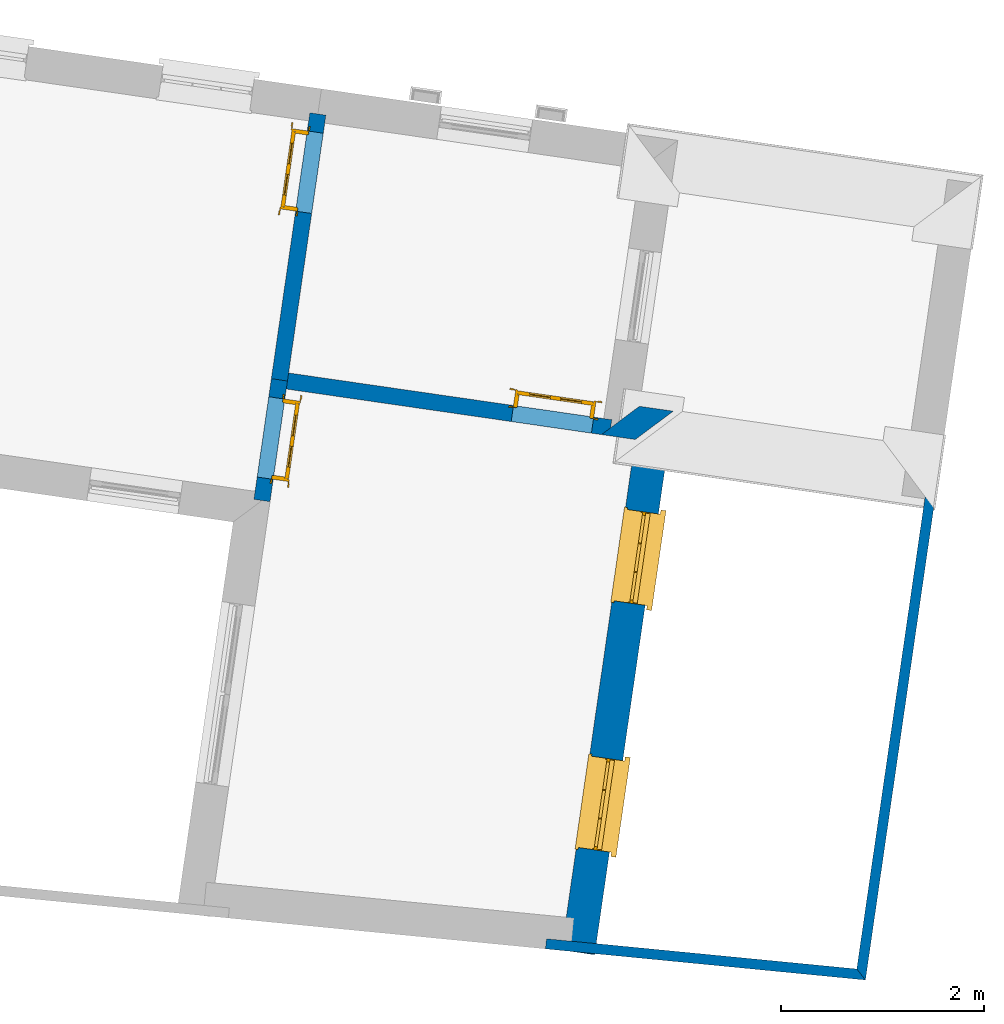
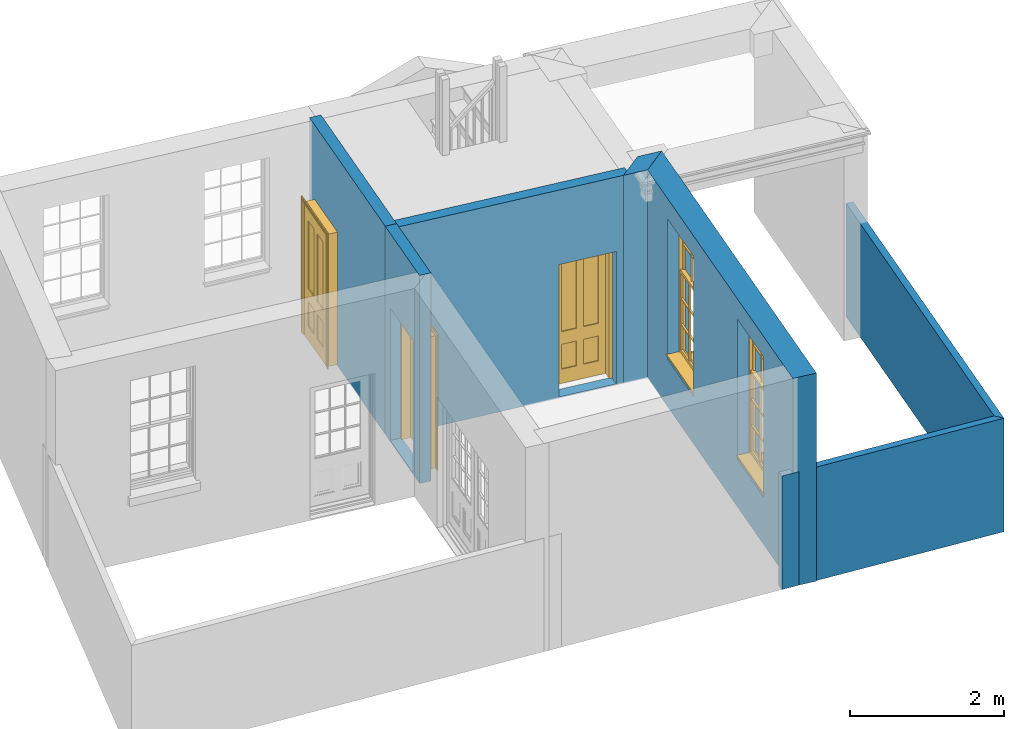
# One storey, part 4 of 7: 7 walls, 3 doors, 2 windows, 5 openings.
"""IFC4 building model written with IfcOpenShell, lengths in metres."""

from ifc_helpers import new_model, si_unit, frame, origin, origin_with_axes, place, context, subcontext, project, spatial, polyline, outline, extrude, faceted_brep, source, transform, mapped, material, layer, layer_set, layer_usage, type_object, type_shapes, element, fill, save


model = new_model("IFC4")

# Units and contexts
model_context = context("Model", 3, world=origin_with_axes())
body_context = subcontext(model_context, "Body", "Model", "MODEL_VIEW")
ifc_project = project(units=[si_unit("PLANEANGLEUNIT", "RADIAN"), si_unit("MASSUNIT", "GRAM", prefix="KILO"), si_unit("FORCEUNIT", "NEWTON", prefix="KILO"), si_unit("LENGTHUNIT", "METRE"), si_unit("AREAUNIT", "SQUARE_METRE"), si_unit("VOLUMEUNIT", "CUBIC_METRE")], contexts=[model_context, model_context])

# Sites, building, storey
site_1_placement = place(None, origin_with_axes())
site_1 = spatial("IfcSite", under=ifc_project, at=site_1_placement, Name="Tamar")
site_2_placement = place(site_1_placement, origin_with_axes())
site_2 = spatial("IfcSite", under=site_1, at=site_2_placement, Name="Site plot-30", CompositionType="ELEMENT")
building_placement = place(None, origin_with_axes())
building = spatial("IfcBuilding", under=site_2, at=building_placement, Name="Building plot-30", CompositionType="ELEMENT")
storey_placement = place(None, frame((0.0, 0.0, 25.0), z_axis=(0.0, 0.0, 1.0), x_axis=(1.0, 0.0, 0.0)))
storey = spatial("IfcBuildingStorey", under=building, at=storey_placement, Name="plot-30 0", CompositionType="ELEMENT", Elevation=25.0)

# Wall, openings, windows
ifc_material_1 = material(Name="Masonry")
ifc_layer_1 = layer(ifc_material_1, 0.33, ventilated=False)
ifc_layer_set_1 = layer_set([ifc_layer_1], Name="exterior_0.08_0.25")
ifc_layer_usage_1 = layer_usage(ifc_layer_set_1, "AXIS2", "POSITIVE", -0.25)
wall_type_1 = type_object("IfcWallType", Name="exterior_0.08_0.25", PredefinedType="SOLIDWALL", material=ifc_layer_set_1)
wall_1_placement = place(storey_placement, frame((288.901284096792, 255.491842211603, 0.0), z_axis=(0.0, 0.0, 1.0), x_axis=(0.143119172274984, 0.989705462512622, 0.0)))
wall_1 = element("IfcWall", 1, at=wall_1_placement, inside=storey, type_object=wall_type_1, material=ifc_layer_usage_1, Name="exterior", context=body_context, shape_type="SweptSolid", body=[
    extrude(outline(polyline([(-0.250000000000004, 0.0800000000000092), (-0.249999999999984, -0.249999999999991), (5.16741889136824, -0.25), (4.8374188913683, 0.0800000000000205), (-0.250000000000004, 0.0800000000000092)])), origin_with_axes(), (0.0, 0.0, 1.0), 3.3),
])
opening_1_placement = place(wall_1_placement, frame((0.774354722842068, 0.0, 0.75)))
opening_1 = element("IfcOpeningElement", 2, at=opening_1_placement, cuts=wall_1, Name="My Opening", ObjectType="Opening", context=body_context, shape_type="SweptSolid", body=[
    extrude(outline(polyline([(0.0, -0.270000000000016), (0.909999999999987, -0.269999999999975), (0.909999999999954, 1.10000000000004), (-3.33066907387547e-14, 1.1), (0.0, -0.270000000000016)])), origin_with_axes(), (0.0, 0.0, 1.0), 2.23),
])
opening_2_placement = place(wall_1_placement, frame((3.23306416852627, 0.0, 0.75)))
opening_2 = element("IfcOpeningElement", 3, at=opening_2_placement, cuts=wall_1, Name="My Opening", ObjectType="Opening", context=body_context, shape_type="SweptSolid", body=[
    extrude(outline(polyline([(0.0, -0.270000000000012), (0.909999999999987, -0.269999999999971), (0.909999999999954, 1.10000000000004), (-3.37507799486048e-14, 1.1), (0.0, -0.270000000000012)])), origin_with_axes(), (0.0, 0.0, 1.0), 2.23),
])
window_type = type_object("IfcWindowType", Name="sash_big_taller", PartitioningType="DOUBLE_PANEL_HORIZONTAL", PredefinedType="NOTDEFINED")
shared_shape_1 = source(origin(), body_context, "Body", "Brep", [
    faceted_brep([(0.033125, 0.145, 1.385209), (0.01, 0.145, 1.385209), (0.033125, 0.145, 1.786042), (0.876875, 0.145, 1.385209), (0.876875, 0.145, 1.786042), (0.9, 0.145, 1.385209), (0.876875, 0.145, 1.796042), (0.876875, 0.145, 2.196875), (0.9, 0.145, 2.22), (0.033125, 0.145, 2.196875), (0.033125, 0.145, 1.796042), (0.01, 0.145, 2.22), (0.876875, 0.115, 1.786042), (0.876875, 0.115, 1.385209), (0.9, 0.115, 1.347084), (0.033125, 0.115, 2.196875), (0.01, 0.115, 2.22), (0.033125, 0.115, 1.796042), (0.01, 0.115, 1.347084), (0.033125, 0.115, 1.385209), (0.033125, 0.115, 1.786042), (0.876875, 0.115, 2.196875), (0.876875, 0.115, 1.796042), (0.9, 0.115, 2.22), (0.033125, 0.145, 1.347084), (0.01, 0.145, 1.347084), (0.033125, 0.145, 0.94625), (0.876875, 0.145, 1.347084), (0.876875, 0.145, 0.94625), (0.9, 0.145, 1.347084), (0.876875, 0.145, 0.52625), (0.876875, 0.145, 0.125417), (0.9, 0.145, 0.077167), (0.033125, 0.145, 0.125417), (0.033125, 0.145, 0.52625), (0.01, 0.145, 0.077167), (-0.0425, 0.0, 0.01), (-0.0425, -0.05, 0.001667), (0.0, 0.0, 0.01), (0.9525, 0.0, 0.01), (0.91, 0.0, 0.01), (0.9525, -0.05, 0.001667), (-0.02, 0.33, 0.077167), (0.0, 0.33, 0.077167), (-0.02, 0.36, 0.077167), (0.0, 0.19, 0.077167), (0.01, 0.19, 0.077167), (0.91, 0.19, 0.077167), (0.91, 0.33, 0.077167), (0.9, 0.19, 0.077167), (0.93, 0.33, 0.077167), (0.93, 0.36, 0.077167), (0.01, 0.175, 1.385209), (0.9, 0.175, 1.385209), (0.876875, 0.175, 0.125417), (0.876875, 0.175, 0.52625), (0.9, 0.175, 0.077167), (0.876875, 0.175, 0.94625), (0.876875, 0.175, 1.347084), (0.033125, 0.175, 0.125417), (0.01, 0.175, 0.077167), (0.033125, 0.175, 0.52625), (0.033125, 0.175, 1.347084), (0.033125, 0.175, 0.94625), (-0.02, 0.33, 0.052167), (-0.02, 0.36, 0.052167), (0.93, 0.36, 0.052167), (0.93, 0.33, 0.052167), (0.91, 0.33, 0.052167), (0.0, 0.33, 0.052167), (0.91, 0.1, 0.026667), (0.0, 0.1, 0.026667), (-0.0425, -0.05, -0.123333), (0.9525, -0.05, -0.123333), (-0.0425, 0.0, -0.123333), (0.9525, 0.0, -0.123333), (0.01, 0.19, 2.22), (0.9, 0.19, 2.22), (0.0, 0.19, 2.23), (0.91, 0.19, 2.23), (0.01, 0.1, 0.077167), (0.9, 0.1, 0.077167), (0.592292, 0.145, 0.125417), (0.592292, 0.175, 0.125417), (0.317708, 0.175, 0.125417), (0.317708, 0.145, 0.125417), (0.592292, 0.145, 0.53625), (0.317708, 0.145, 0.53625), (0.317708, 0.145, 0.52625), (0.592292, 0.145, 0.52625), (0.592292, 0.175, 0.53625), (0.317708, 0.175, 0.53625), (0.592292, 0.115, 1.796042), (0.592292, 0.145, 1.796042), (0.317708, 0.145, 1.796042), (0.317708, 0.115, 1.796042), (0.317708, 0.115, 1.786042), (0.592292, 0.115, 1.786042), (0.317708, 0.145, 1.786042), (0.592292, 0.145, 1.786042), (0.602292, 0.115, 1.786042), (0.592292, 0.115, 1.385209), (0.602292, 0.115, 1.385209), (0.602292, 0.145, 1.385209), (0.592292, 0.145, 1.385209), (0.602292, 0.145, 1.786042), (0.876875, 0.145, 0.53625), (0.876875, 0.175, 0.53625), (0.602292, 0.175, 0.53625), (0.602292, 0.145, 0.53625), (0.317708, 0.175, 0.52625), (0.307708, 0.175, 0.125417), (0.307708, 0.175, 0.52625), (0.602292, 0.175, 0.52625), (0.602292, 0.175, 0.125417), (0.592292, 0.175, 0.52625), (0.307708, 0.175, 0.53625), (0.033125, 0.175, 0.53625), (0.317708, 0.175, 1.347084), (0.317708, 0.175, 0.94625), (0.307708, 0.175, 0.94625), (0.307708, 0.175, 1.347084), (0.602292, 0.175, 1.347084), (0.602292, 0.175, 0.94625), (0.592292, 0.175, 0.94625), (0.592292, 0.175, 1.347084), (0.307708, 0.145, 0.52625), (0.307708, 0.145, 0.125417), (0.307708, 0.145, 0.53625), (0.033125, 0.145, 0.53625), (0.307708, 0.145, 1.347084), (0.307708, 0.145, 0.94625), (0.592292, 0.145, 1.347084), (0.592292, 0.145, 0.94625), (0.317708, 0.145, 0.94625), (0.317708, 0.145, 1.347084), (0.602292, 0.145, 0.94625), (0.602292, 0.145, 1.347084), (0.602292, 0.145, 0.52625), (0.602292, 0.145, 0.125417), (0.307708, 0.115, 1.796042), (0.307708, 0.115, 1.786042), (0.307708, 0.115, 1.385209), (0.317708, 0.115, 1.385209), (0.317708, 0.115, 2.196875), (0.307708, 0.115, 2.196875), (0.602292, 0.115, 2.196875), (0.592292, 0.115, 2.196875), (0.602292, 0.115, 1.796042), (0.602292, 0.145, 1.796042), (0.307708, 0.145, 1.796042), (0.307708, 0.145, 2.196875), (0.317708, 0.145, 2.196875), (0.592292, 0.145, 2.196875), (0.602292, 0.145, 2.196875), (0.307708, 0.145, 1.786042), (0.317708, 0.145, 1.385209), (0.307708, 0.145, 1.385209), (0.876875, 0.175, 0.93625), (0.033125, 0.175, 0.93625), (0.033125, 0.145, 0.93625), (0.876875, 0.145, 0.93625), (0.91, 0.1, 2.23), (0.9, 0.1, 2.22), (0.01, 0.1, 2.22), (0.0, 0.1, 2.23), (0.91, 0.0, 0.0), (0.0, 0.0, 0.0), (0.91, 0.33, 0.0), (0.0, 0.33, 0.0), (0.317708, 0.145, 0.93625), (0.592292, 0.145, 0.93625), (0.317708, 0.175, 0.93625), (0.307708, 0.175, 0.93625), (0.602292, 0.175, 0.93625), (0.592292, 0.175, 0.93625), (0.307708, 0.145, 0.93625), (0.602292, 0.145, 0.93625)], [[[0, 1, 2]], [[3, 4, 5]], [[6, 7, 8]], [[9, 10, 11]], [[12, 13, 14]], [[15, 16, 17]], [[18, 19, 20]], [[21, 22, 23]], [[24, 25, 26]], [[27, 28, 29]], [[30, 31, 32]], [[33, 34, 35]], [[14, 27, 29]], [[25, 24, 18]], [[36, 37, 38]], [[39, 40, 41]], [[42, 43, 44]], [[45, 46, 43]], [[47, 48, 49]], [[50, 51, 48]], [[1, 0, 52]], [[5, 53, 3]], [[54, 55, 56]], [[57, 58, 53]], [[59, 60, 61]], [[62, 63, 52]], [[48, 43, 46, 49]], [[51, 44, 43, 48]], [[64, 42, 44, 65]], [[65, 44, 51, 66]], [[66, 51, 50, 67]], [[65, 66, 68, 69]], [[60, 56, 49, 46]], [[70, 71, 38, 40]], [[37, 41, 40, 38]], [[37, 72, 73, 41]], [[74, 75, 73, 72]], [[8, 11, 76, 77]], [[76, 78, 79, 77]], [[32, 35, 80, 81]], [[81, 80, 71, 70]], [[82, 83, 84, 85]], [[86, 87, 88, 89]], [[86, 90, 91, 87]], [[92, 93, 94, 95]], [[92, 95, 96, 97]], [[96, 98, 99, 97]], [[100, 97, 101, 102]], [[103, 104, 99, 105]], [[97, 99, 104, 101]], [[102, 103, 105, 100]], [[106, 107, 108, 109]], [[110, 84, 111, 112]], [[113, 114, 83, 115]], [[116, 112, 61, 117]], [[90, 115, 110, 91]], [[118, 119, 120, 121]], [[122, 123, 124, 125]], [[113, 108, 107, 55]], [[126, 112, 111, 127]], [[34, 61, 112, 126]], [[89, 115, 83, 82]], [[88, 110, 115, 89]], [[85, 84, 110, 88]], [[128, 116, 117, 129]], [[130, 121, 120, 131]], [[132, 125, 124, 133]], [[134, 119, 118, 135]], [[136, 123, 122, 137]], [[138, 113, 55, 30]], [[139, 114, 113, 138]], [[138, 30, 106, 109]], [[88, 126, 127, 85]], [[138, 89, 82, 139]], [[137, 132, 133, 136]], [[128, 129, 34, 126]], [[135, 130, 131, 134]], [[140, 17, 20, 141]], [[96, 141, 142, 143]], [[144, 145, 140, 95]], [[146, 147, 92, 148]], [[100, 12, 22, 148]], [[149, 6, 4, 105]], [[94, 150, 151, 152]], [[149, 93, 153, 154]], [[99, 98, 94, 93]], [[155, 2, 10, 150]], [[156, 157, 155, 98]], [[141, 155, 157, 142]], [[20, 2, 155, 141]], [[143, 156, 98, 96]], [[140, 150, 10, 17]], [[145, 151, 150, 140]], [[147, 153, 93, 92]], [[95, 94, 152, 144]], [[22, 6, 149, 148]], [[148, 149, 154, 146]], [[100, 105, 4, 12]], [[109, 86, 89, 138]], [[108, 113, 115, 90]], [[91, 110, 112, 116]], [[87, 128, 126, 88]], [[97, 100, 148, 92]], [[141, 96, 95, 140]], [[98, 155, 150, 94]], [[105, 99, 93, 149]], [[143, 101, 104, 156]], [[135, 118, 125, 132]], [[144, 152, 153, 147]], [[127, 111, 59, 33]], [[15, 9, 151, 145]], [[146, 154, 7, 21]], [[31, 54, 114, 139]], [[36, 74, 72, 37]], [[39, 41, 73, 75]], [[18, 14, 101, 143]], [[23, 16, 144, 147]], [[83, 56, 60, 84]], [[52, 53, 125, 118]], [[53, 52, 156, 104]], [[11, 8, 153, 152]], [[14, 18, 135, 132]], [[2, 1, 11, 10]], [[8, 5, 4, 6]], [[57, 53, 56, 158]], [[60, 52, 63, 159]], [[26, 25, 35, 160]], [[32, 29, 28, 161]], [[14, 23, 22, 12]], [[18, 20, 17, 16]], [[19, 0, 2, 20]], [[17, 10, 9, 15]], [[12, 4, 3, 13]], [[21, 7, 6, 22]], [[27, 58, 57, 28]], [[30, 55, 54, 31]], [[33, 59, 61, 34]], [[26, 63, 62, 24]], [[5, 8, 77, 53]], [[76, 11, 1, 52]], [[46, 45, 78, 76]], [[49, 77, 79, 47]], [[70, 162, 163, 81]], [[71, 80, 164, 165]], [[19, 142, 157, 0]], [[102, 13, 3, 103]], [[121, 130, 24, 62]], [[29, 32, 81, 14]], [[80, 35, 25, 18]], [[60, 46, 76, 52]], [[77, 49, 56, 53]], [[23, 14, 81, 163]], [[16, 164, 80, 18]], [[35, 85, 127]], [[127, 33, 35]], [[139, 82, 32]], [[32, 31, 139]], [[32, 82, 85, 35]], [[102, 101, 14]], [[14, 13, 102]], [[18, 143, 142]], [[142, 19, 18]], [[146, 21, 23]], [[23, 147, 146]], [[16, 15, 145]], [[145, 144, 16]], [[11, 152, 151]], [[151, 9, 11]], [[154, 153, 8]], [[8, 7, 154]], [[23, 163, 164, 16]], [[162, 165, 164, 163]], [[52, 118, 121]], [[121, 62, 52]], [[125, 53, 122]], [[58, 122, 53]], [[27, 137, 122, 58]], [[56, 83, 114]], [[114, 54, 56]], [[111, 84, 60]], [[60, 59, 111]], [[137, 27, 14]], [[14, 132, 137]], [[130, 135, 18]], [[18, 24, 130]], [[157, 156, 52]], [[52, 0, 157]], [[103, 3, 53]], [[53, 104, 103]], [[79, 78, 165, 162]], [[78, 45, 71, 165]], [[162, 70, 47, 79]], [[166, 75, 74, 167]], [[68, 66, 67]], [[48, 68, 67, 50]], [[69, 64, 65]], [[42, 64, 69, 43]], [[69, 68, 168, 169]], [[70, 68, 48, 47]], [[166, 168, 68, 70]], [[43, 69, 71, 45]], [[69, 169, 167, 71]], [[168, 166, 167, 169]], [[38, 167, 74, 36]], [[71, 167, 38]], [[39, 75, 166, 40]], [[40, 166, 70]], [[133, 134, 170, 171]], [[133, 124, 119, 134]], [[28, 57, 123, 136]], [[172, 91, 116, 173]], [[174, 108, 90, 175]], [[120, 173, 159, 63]], [[124, 175, 172, 119]], [[174, 123, 57, 158]], [[176, 173, 116, 128]], [[160, 159, 173, 176]], [[171, 175, 90, 86]], [[170, 172, 175, 171]], [[87, 91, 172, 170]], [[131, 120, 63, 26]], [[177, 174, 158, 161]], [[109, 108, 174, 177]], [[177, 161, 28, 136]], [[170, 176, 128, 87]], [[177, 171, 86, 109]], [[131, 26, 160, 176]], [[136, 133, 171, 177]], [[123, 174, 175, 124]], [[119, 172, 173, 120]], [[134, 131, 176, 170]], [[129, 117, 159, 160]], [[161, 158, 107, 106]], [[35, 34, 129]], [[35, 129, 160]], [[32, 106, 30]], [[32, 161, 106]], [[56, 55, 107]], [[56, 107, 158]], [[60, 117, 61]], [[60, 159, 117]]]),
])
type_shapes(window_type, [shared_shape_1])
window_1_placement = place(storey_placement, frame((289.279329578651, 256.219583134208, 0.75), z_axis=(0.0, 0.0, 1.0), x_axis=(0.130238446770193, 0.900631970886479, 0.0)))
window_1 = element("IfcWindow", 4, at=window_1_placement, inside=storey, type_object=window_type, Name="living sahn window", OverallHeight=2.23, OverallWidth=0.91, context=body_context, shape_type="MappedRepresentation", body=[
    mapped(shared_shape_1, transform((0.0, 0.0, 0.0), scale=1.0)),
])
fill(opening_1, window_1)
window_2_placement = place(storey_placement, frame((289.631218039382, 258.652981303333, 0.75), z_axis=(0.0, 0.0, 1.0), x_axis=(0.130238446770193, 0.900631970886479, 0.0)))
window_2 = element("IfcWindow", 5, at=window_2_placement, inside=storey, type_object=window_type, Name="living sahn window", OverallHeight=2.23, OverallWidth=0.91, context=body_context, shape_type="MappedRepresentation", body=[
    mapped(shared_shape_1, transform((0.0, 0.0, 0.0), scale=1.0)),
])
fill(opening_2, window_2)

# Wall
wall_2_placement = place(storey_placement, frame((289.605061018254, 260.358638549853, 0.0), z_axis=(0.0, 0.0, 1.0), x_axis=(-0.9897054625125, 0.143119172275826, 0.0)))
element("IfcWall", 6, at=wall_2_placement, inside=storey, type_object=wall_type_1, material=ifc_layer_usage_1, Name="exterior", context=body_context, shape_type="SweptSolid", body=[
    extrude(outline(polyline([(0.0799999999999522, 0.0800000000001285), (-0.249999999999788, -0.250000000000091), (0.0873573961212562, -0.249999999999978), (0.417357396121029, 0.0800000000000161), (0.0799999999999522, 0.0800000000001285)])), origin_with_axes(), (0.0, 0.0, 1.0), 3.3),
])

# Wall, opening, door
ifc_material_2 = material(Name="Masonry")
ifc_layer_2 = layer(ifc_material_2, 0.16, ventilated=False)
ifc_layer_set_2 = layer_set([ifc_layer_2], Name="interior_0.08_0.08")
ifc_layer_usage_2 = layer_usage(ifc_layer_set_2, "AXIS2", "POSITIVE", -0.08)
wall_type_2 = type_object("IfcWallType", Name="interior_0.08_0.08", PredefinedType="SOLIDWALL", material=ifc_layer_set_2)
wall_3_placement = place(storey_placement, frame((286.004141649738, 260.879359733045, 0.0), z_axis=(0.0, 0.0, 1.0), x_axis=(0.989705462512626, -0.143119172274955, 0.0)))
wall_3 = element("IfcWall", 7, at=wall_3_placement, inside=storey, type_object=wall_type_2, material=ifc_layer_usage_2, Name="interior", context=body_context, shape_type="SweptSolid", body=[
    extrude(outline(polyline([(1.45177339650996e-14, 0.0800000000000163), (-1.45808218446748e-14, -0.0800000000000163), (3.30101735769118, -0.0800000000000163), (3.3010173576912, 0.0800000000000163), (1.45177339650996e-14, 0.0800000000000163)])), origin_with_axes(), (0.0, 0.0, 1.0), 3.3),
])
opening_3_placement = place(wall_3_placement, frame((2.32101735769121, 0.0, 0.0199999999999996)))
opening_3 = element("IfcOpeningElement", 8, at=opening_3_placement, cuts=wall_3, Name="My Opening", ObjectType="Opening", context=body_context, shape_type="SweptSolid", body=[
    extrude(outline(polyline([(0.0, -0.100000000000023), (0.800000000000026, -0.100000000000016), (0.799999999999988, 1.10000000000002), (-3.86357612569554e-14, 1.10000000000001), (0.0, -0.100000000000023)])), origin_with_axes(), (0.0, 0.0, 1.0), 2.1),
])
door_type = type_object("IfcDoorType", Name="door_inside", OperationType="SINGLE_SWING_LEFT", PredefinedType="NOTDEFINED")
shared_shape_2 = source(origin(), body_context, "Body", "Brep", [
    faceted_brep([(0.773, 0.33, 1.895), (0.66, 0.33, 1.895), (0.66, 0.33, 2.073), (0.773, 0.33, 2.073), (0.773, 0.33, 0.82), (0.66, 0.33, 0.82), (0.45, 0.33, 1.895), (0.45, 0.33, 2.073), (0.773, 0.33, 0.62), (0.66, 0.33, 0.62), (0.66, 0.315, 0.82), (0.66, 0.315, 1.895), (0.45, 0.315, 1.895), (0.35, 0.33, 1.895), (0.35, 0.33, 2.073), (0.773, 0.33, 0.225), (0.66, 0.33, 0.225), (0.45, 0.33, 0.62), (0.45, 0.33, 0.82), (0.45, 0.315, 0.82), (0.35, 0.33, 0.82), (0.14, 0.33, 2.073), (0.14, 0.33, 1.895), (0.773, 0.33, 0.0), (0.66, 0.33, 0.0), (0.66, 0.315, 0.225), (0.66, 0.315, 0.62), (0.45, 0.315, 0.62), (0.35, 0.33, 0.62), (0.35, 0.315, 0.82), (0.35, 0.315, 1.895), (0.14, 0.315, 1.895), (0.027, 0.33, 2.073), (0.027, 0.33, 1.895), (0.773, 0.292, 0.0), (0.66, 0.292, 0.0), (0.45, 0.33, 0.0), (0.45, 0.33, 0.225), (0.45, 0.315, 0.225), (0.35, 0.33, 0.225), (0.14, 0.33, 0.82), (0.14, 0.33, 0.62), (0.14, 0.315, 0.82), (0.027, 0.33, 0.82), (0.773, 0.292, 0.225), (0.66, 0.292, 0.225), (0.45, 0.292, 0.0), (0.35, 0.33, 0.0), (0.35, 0.315, 0.225), (0.35, 0.315, 0.62), (0.14, 0.315, 0.62), (0.027, 0.33, 0.62), (0.773, 0.292, 0.62), (0.66, 0.292, 0.62), (0.45, 0.292, 0.225), (0.35, 0.292, 0.0), (0.14, 0.33, 0.225), (0.14, 0.33, 0.0), (0.14, 0.315, 0.225), (0.027, 0.33, 0.225), (0.773, 0.292, 0.82), (0.66, 0.292, 0.82), (0.66, 0.307, 0.62), (0.66, 0.307, 0.225), (0.45, 0.307, 0.225), (0.35, 0.292, 0.225), (0.14, 0.292, 0.0), (0.027, 0.33, 0.0), (0.773, 0.292, 1.895), (0.66, 0.292, 1.895), (0.45, 0.292, 0.62), (0.45, 0.292, 0.82), (0.45, 0.307, 0.62), (0.35, 0.292, 0.62), (0.14, 0.292, 0.225), (0.027, 0.292, 0.0), (0.773, 0.292, 2.073), (0.66, 0.292, 2.073), (0.66, 0.307, 1.895), (0.66, 0.307, 0.82), (0.45, 0.307, 0.82), (0.35, 0.292, 0.82), (0.35, 0.307, 0.62), (0.35, 0.307, 0.225), (0.14, 0.307, 0.225), (0.027, 0.292, 0.225), (0.45, 0.292, 1.895), (0.45, 0.292, 2.073), (0.45, 0.307, 1.895), (0.35, 0.292, 1.895), (0.14, 0.292, 0.82), (0.14, 0.292, 0.62), (0.14, 0.307, 0.62), (0.027, 0.292, 0.62), (0.35, 0.292, 2.073), (0.35, 0.307, 1.895), (0.35, 0.307, 0.82), (0.14, 0.307, 0.82), (0.027, 0.292, 0.82), (0.14, 0.292, 2.073), (0.14, 0.292, 1.895), (0.14, 0.307, 1.895), (0.027, 0.292, 1.895), (0.027, 0.292, 2.073), (0.02, 0.335, 0.0), (0.005, 0.34, 0.0), (0.005, 0.34, 2.095), (0.02, 0.335, 2.08), (0.02, 0.33, 0.0), (0.0, 0.335, 0.0), (0.0, 0.335, 2.1), (0.795, 0.34, 2.095), (0.78, 0.335, 2.08), (0.02, 0.33, 2.08), (0.0, 0.33, 0.0), (-0.032, 0.345, 0.0), (-0.032, 0.345, 2.132), (0.8, 0.335, 2.1), (0.795, 0.34, 0.0), (0.78, 0.335, 0.0), (0.78, 0.33, 2.08), (0.04, 0.29, 0.0), (0.025, 0.29, 0.0), (0.025, 0.29, 2.075), (0.04, 0.29, 2.06), (-0.04, 0.34, 0.0), (-0.04, 0.34, 2.14), (0.832, 0.345, 2.132), (0.8, 0.335, 0.0), (0.78, 0.33, 0.0), (0.8, 0.33, 0.0), (0.86, 0.33, 0.0), (0.86, 0.33, 2.16), (0.8, 0.33, 2.1), (-0.06, 0.33, 2.16), (0.0, 0.33, 2.1), (-0.06, 0.33, 0.0), (-0.04, 0.345, 0.0), (-0.04, 0.345, 2.14), (0.84, 0.34, 2.14), (0.832, 0.345, 0.0), (0.84, 0.34, 0.0), (0.86, 0.345, 0.0), (0.86, 0.345, 2.16), (-0.06, 0.345, 2.16), (-0.06, 0.345, 0.0), (0.84, 0.345, 0.0), (0.84, 0.345, 2.14), (-0.025, 0.155, 0.0), (-0.025, 0.16, 0.0), (-0.025, 0.16, 2.125), (-0.025, 0.155, 2.125), (-0.017, 0.155, 0.0), (-0.017, 0.155, 2.117), (0.825, 0.16, 2.125), (0.825, 0.155, 2.125), (0.825, 0.155, 0.0), (0.845, 0.155, 0.0), (-0.045, 0.155, 2.145), (-0.045, 0.155, 0.0), (0.845, 0.155, 2.145), (0.015, 0.165, 0.0), (0.015, 0.165, 2.085), (0.817, 0.155, 2.117), (0.825, 0.16, 0.0), (0.845, 0.17, 0.0), (0.845, 0.17, 2.145), (-0.045, 0.17, 2.145), (-0.045, 0.17, 0.0), (0.02, 0.16, 0.0), (0.02, 0.16, 2.08), (0.785, 0.165, 2.085), (0.817, 0.155, 0.0), (0.8, 0.17, 0.0), (0.8, 0.17, 2.1), (0.0, 0.17, 2.1), (0.0, 0.17, 0.0), (0.035, 0.165, 0.0), (0.035, 0.165, 2.065), (0.78, 0.16, 2.08), (0.785, 0.165, 0.0), (0.775, 0.29, 2.075), (0.76, 0.29, 2.06), (0.035, 0.17, 2.065), (0.035, 0.17, 0.0), (0.765, 0.165, 2.065), (0.78, 0.16, 0.0), (0.765, 0.17, 0.0), (0.765, 0.17, 2.065), (0.765, 0.165, 0.0), (0.04, 0.17, 2.06), (0.04, 0.17, 0.0), (0.76, 0.17, 2.06), (0.76, 0.17, 0.0), (0.76, 0.29, 0.0), (0.775, 0.29, 0.0), (0.025, 0.33, 0.0), (0.025, 0.33, 2.075), (0.775, 0.33, 0.0), (0.775, 0.33, 2.075)], [[[0, 1, 2, 3]], [[1, 0, 4, 5]], [[1, 6, 7, 2]], [[8, 9, 5, 4]], [[1, 5, 10, 11]], [[6, 1, 11, 12]], [[6, 13, 14, 7]], [[15, 16, 9, 8]], [[9, 17, 18, 5]], [[5, 18, 19, 10]], [[10, 19, 12, 11]], [[18, 6, 12, 19]], [[18, 20, 13, 6]], [[21, 14, 13, 22]], [[23, 24, 16, 15]], [[9, 16, 25, 26]], [[17, 9, 26, 27]], [[17, 28, 20, 18]], [[13, 20, 29, 30]], [[22, 13, 30, 31]], [[32, 21, 22, 33]], [[34, 35, 24, 23]], [[24, 36, 37, 16]], [[16, 37, 38, 25]], [[25, 38, 27, 26]], [[37, 17, 27, 38]], [[37, 39, 28, 17]], [[40, 20, 28, 41]], [[20, 40, 42, 29]], [[31, 30, 29, 42]], [[40, 22, 31, 42]], [[33, 22, 40, 43]], [[35, 34, 44, 45]], [[35, 46, 36, 24]], [[36, 47, 39, 37]], [[28, 39, 48, 49]], [[41, 28, 49, 50]], [[43, 40, 41, 51]], [[45, 44, 52, 53]], [[46, 35, 45, 54]], [[46, 55, 47, 36]], [[56, 39, 47, 57]], [[39, 56, 58, 48]], [[50, 49, 48, 58]], [[56, 41, 50, 58]], [[51, 41, 56, 59]], [[53, 52, 60, 61]], [[45, 53, 62, 63]], [[54, 45, 63, 64]], [[55, 46, 54, 65]], [[55, 66, 57, 47]], [[59, 56, 57, 67]], [[61, 60, 68, 69]], [[70, 53, 61, 71]], [[53, 70, 72, 62]], [[72, 64, 63, 62]], [[70, 54, 64, 72]], [[65, 54, 70, 73]], [[65, 74, 66, 55]], [[67, 57, 66, 75]], [[69, 68, 76, 77]], [[61, 69, 78, 79]], [[71, 61, 79, 80]], [[73, 70, 71, 81]], [[65, 73, 82, 83]], [[74, 65, 83, 84]], [[74, 85, 75, 66]], [[86, 69, 77, 87]], [[69, 86, 88, 78]], [[88, 80, 79, 78]], [[86, 71, 80, 88]], [[81, 71, 86, 89]], [[73, 81, 90, 91]], [[73, 91, 92, 82]], [[83, 82, 92, 84]], [[91, 74, 84, 92]], [[91, 93, 85, 74]], [[89, 86, 87, 94]], [[81, 89, 95, 96]], [[90, 81, 96, 97]], [[90, 98, 93, 91]], [[94, 99, 100, 89]], [[89, 100, 101, 95]], [[101, 97, 96, 95]], [[100, 90, 97, 101]], [[100, 102, 98, 90]], [[99, 103, 102, 100]], [[32, 103, 99, 21]], [[102, 103, 32, 33]], [[98, 102, 33, 43]], [[21, 99, 94, 14]], [[94, 87, 7, 14]], [[7, 87, 77, 2]], [[76, 3, 2, 77]], [[43, 51, 93, 98]], [[51, 59, 85, 93]], [[67, 75, 85, 59]], [[34, 23, 15, 44]], [[44, 15, 8, 52]], [[52, 8, 4, 60]], [[0, 68, 60, 4]], [[0, 3, 76, 68]], [[104, 105, 106, 107]], [[104, 108, 109, 105]], [[105, 109, 110, 106]], [[107, 106, 111, 112]], [[107, 113, 108, 104]], [[114, 109, 108]], [[109, 115, 116, 110]], [[106, 110, 117, 111]], [[112, 111, 118, 119]], [[113, 107, 112, 120]], [[121, 122, 123, 124]], [[115, 109, 114, 125]], [[115, 125, 126, 116]], [[110, 116, 127, 117]], [[111, 117, 128, 118]], [[118, 128, 129, 119]], [[120, 112, 119, 129]], [[130, 129, 128]], [[130, 131, 132, 133]], [[133, 132, 134, 135]], [[135, 134, 136, 114]], [[136, 125, 114]], [[125, 137, 138, 126]], [[116, 126, 139, 127]], [[117, 127, 140, 128]], [[141, 130, 128, 140]], [[131, 130, 141]], [[131, 142, 143, 132]], [[132, 143, 144, 134]], [[134, 144, 145, 136]], [[137, 125, 136, 145]], [[143, 142, 146]], [[143, 146, 147]], [[137, 145, 144]], [[143, 147, 138]], [[138, 137, 144]], [[143, 138, 144]], [[126, 138, 147, 139]], [[127, 139, 141, 140]], [[142, 131, 141, 146]], [[139, 147, 146, 141]], [[148, 149, 150, 151]], [[149, 152, 153, 150]], [[151, 150, 154, 155]], [[155, 156, 157]], [[158, 159, 148]], [[158, 148, 151]], [[155, 157, 160]], [[158, 151, 155]], [[155, 160, 158]], [[152, 161, 162, 153]], [[150, 153, 163, 154]], [[155, 154, 164, 156]], [[156, 164, 165, 157]], [[157, 165, 166, 160]], [[160, 166, 167, 158]], [[158, 167, 168, 159]], [[161, 169, 170, 162]], [[153, 162, 171, 163]], [[154, 163, 172, 164]], [[165, 164, 173]], [[165, 173, 174, 166]], [[166, 174, 175, 167]], [[167, 175, 176, 168]], [[169, 177, 178, 170]], [[162, 170, 179, 171]], [[163, 171, 180, 172]], [[172, 180, 173, 164]], [[124, 123, 181, 182]], [[183, 178, 177, 184]], [[170, 178, 185, 179]], [[171, 179, 186, 180]], [[187, 173, 180]], [[185, 188, 187, 189]], [[188, 185, 178, 183]], [[179, 185, 189, 186]], [[189, 187, 180, 186]], [[190, 183, 184, 191]], [[192, 188, 183, 190]], [[191, 184, 122, 121]], [[124, 190, 191, 121]], [[193, 187, 188, 192]], [[182, 192, 190, 124]], [[184, 176, 122]], [[194, 195, 187, 193]], [[192, 182, 194, 193]], [[161, 176, 184]], [[114, 108, 122, 176]], [[173, 187, 195]], [[152, 149, 176, 161]], [[169, 161, 184, 177]], [[196, 122, 108]], [[176, 175, 135, 114]], [[173, 195, 129, 130]], [[176, 149, 168]], [[123, 122, 196, 197]], [[196, 108, 113, 197]], [[175, 174, 133, 135]], [[198, 129, 195]], [[133, 174, 173, 130]], [[159, 168, 149, 148]], [[181, 123, 197, 199]], [[197, 113, 120, 199]], [[199, 120, 129, 198]], [[195, 181, 199, 198]], [[195, 194, 182, 181]]]),
])
type_shapes(door_type, [shared_shape_2])
door_1_placement = place(storey_placement, frame((288.286953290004, 260.448207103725, 0.0199999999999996), z_axis=(0.0, 0.0, 1.0), x_axis=(0.791764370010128, -0.11449533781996, 0.0)))
door_1 = element("IfcDoor", 9, at=door_1_placement, inside=storey, type_object=door_type, Name="living inside door", OverallHeight=2.1, OverallWidth=0.8, context=body_context, shape_type="MappedRepresentation", body=[
    mapped(shared_shape_2, transform((0.0, 0.0, 0.0), scale=1.0)),
])
fill(opening_3, door_1)

wall_4_placement = place(storey_placement, frame((286.004141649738, 260.879359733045, 0.0), z_axis=(0.0, 0.0, 1.0), x_axis=(0.143119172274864, 0.98970546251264, 0.0)))
wall_4 = element("IfcWall", 10, at=wall_4_placement, inside=storey, type_object=wall_type_2, material=ifc_layer_usage_2, Name="interior", context=body_context, shape_type="SweptSolid", body=[
    extrude(outline(polyline([(2.18540877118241e-14, 0.0800000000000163), (-2.18442905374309e-14, -0.0800000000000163), (2.6493968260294, -0.0800000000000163), (2.64939682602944, 0.0800000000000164), (2.18540877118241e-14, 0.0800000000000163)])), origin_with_axes(), (0.0, 0.0, 1.0), 3.3),
])
opening_4_placement = place(wall_4_placement, frame((1.66939682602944, 0.0, 0.0199999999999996)))
opening_4 = element("IfcOpeningElement", 11, at=opening_4_placement, cuts=wall_4, Name="My Opening", ObjectType="Opening", context=body_context, shape_type="SweptSolid", body=[
    extrude(outline(polyline([(0.0, -0.0999999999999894), (0.799999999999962, -0.100000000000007), (0.799999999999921, 1.10000000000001), (-4.13002965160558e-14, 1.10000000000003), (0.0, -0.0999999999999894)])), origin_with_axes(), (0.0, 0.0, 1.0), 2.1),
])
door_2_placement = place(storey_placement, frame((286.342034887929, 262.51725897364, 0.0199999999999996), z_axis=(0.0, 0.0, 1.0), x_axis=(0.114495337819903, 0.791764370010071, 0.0)))
door_2 = element("IfcDoor", 12, at=door_2_placement, inside=storey, type_object=door_type, Name="kitchen inside door", OverallHeight=2.1, OverallWidth=0.8, context=body_context, shape_type="MappedRepresentation", body=[
    mapped(shared_shape_2, transform((0.0, 0.0, 0.0), scale=1.0)),
])
fill(opening_4, door_2)

wall_5_placement = place(storey_placement, frame((286.004141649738, 260.879359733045, 0.0), z_axis=(0.0, 0.0, 1.0), x_axis=(-0.14311917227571, -0.989705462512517, 0.0)))
wall_5 = element("IfcWall", 13, at=wall_5_placement, inside=storey, type_object=wall_type_2, material=ifc_layer_usage_2, Name="interior", context=body_context, shape_type="SweptSolid", body=[
    extrude(outline(polyline([(9.71973971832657e-15, 0.0800000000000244), (-9.76506402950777e-15, -0.0800000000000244), (1.20257814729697, -0.0800000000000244), (1.20257814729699, 0.0800000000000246), (9.71973971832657e-15, 0.0800000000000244)])), origin_with_axes(), (0.0, 0.0, 1.0), 3.3),
])
opening_5_placement = place(wall_5_placement, frame((0.17999999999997, 0.0, 0.0199999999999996)))
opening_5 = element("IfcOpeningElement", 14, at=opening_5_placement, cuts=wall_5, Name="My Opening", ObjectType="Opening", context=body_context, shape_type="SweptSolid", body=[
    extrude(outline(polyline([(0.0, -0.0999999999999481), (0.800000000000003, -0.0999999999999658), (0.800000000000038, 1.09999999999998), (3.40838468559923e-14, 1.1), (0.0, -0.0999999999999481)])), origin_with_axes(), (0.0, 0.0, 1.0), 2.1),
])
door_3_placement = place(storey_placement, frame((285.879409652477, 260.71552466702, 0.0199999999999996), z_axis=(0.0, 0.0, 1.0), x_axis=(-0.114495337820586, -0.791764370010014, 0.0)))
door_3 = element("IfcDoor", 15, at=door_3_placement, inside=storey, type_object=door_type, Name="kitchen living inside door", OverallHeight=2.1, OverallWidth=0.8, context=body_context, shape_type="MappedRepresentation", body=[
    mapped(shared_shape_2, transform((0.0, 0.0, 0.0), scale=1.0)),
])
fill(opening_5, door_3)

# Walls
ifc_material_3 = material(Name="Masonry")
ifc_layer_3 = layer(ifc_material_3, 0.1, ventilated=False)
ifc_layer_set_3 = layer_set([ifc_layer_3], Name="fence_-0.15_0.25")
ifc_layer_usage_3 = layer_usage(ifc_layer_set_3, "AXIS2", "POSITIVE", -0.25)
wall_type_3 = type_object("IfcWallType", Name="fence_-0.15_0.25", PredefinedType="SOLIDWALL", material=ifc_layer_set_3)
wall_6_placement = place(storey_placement, frame((288.901284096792, 255.491842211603, 0.0), z_axis=(0.0, 0.0, 1.0), x_axis=(0.9953035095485, -0.0968035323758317, 0.0)))
element("IfcWall", 16, at=wall_6_placement, inside=storey, type_object=wall_type_3, material=ifc_layer_usage_3, Name="fence", context=body_context, shape_type="SweptSolid", body=[
    extrude(outline(polyline([(-0.249999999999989, -0.149999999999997), (-0.249999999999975, -0.25000000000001), (2.92062108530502, -0.250000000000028), (2.82518122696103, -0.14999999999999), (-0.249999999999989, -0.149999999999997)])), origin_with_axes(), (0.0, 0.0, 1.0), 1.8),
])
wall_7_placement = place(storey_placement, frame((291.570709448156, 255.232213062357, 0.0), z_axis=(0.0, 0.0, 1.0), x_axis=(0.143119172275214, 0.989705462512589, 0.0)))
element("IfcWall", 17, at=wall_7_placement, inside=storey, type_object=wall_type_3, material=ifc_layer_usage_3, Name="fence", context=body_context, shape_type="SweptSolid", body=[
    extrude(outline(polyline([(-0.143159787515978, -0.149999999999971), (-0.238599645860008, -0.249999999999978), (5.04232933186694, -0.249999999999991), (5.04232933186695, -0.149999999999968), (-0.143159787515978, -0.149999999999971)])), origin_with_axes(), (0.0, 0.0, 1.0), 1.8),
])

save(model, "model.ifc")
